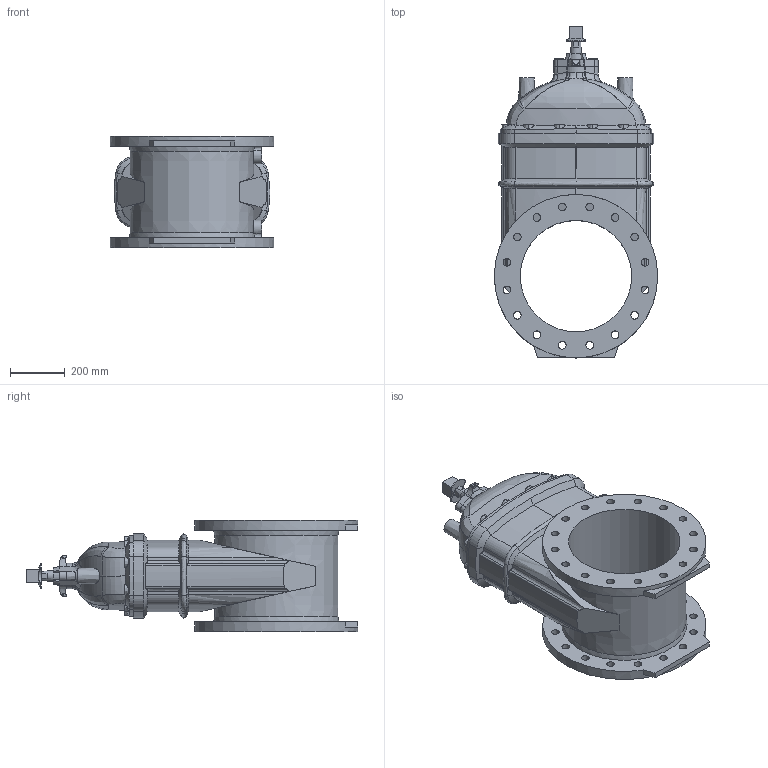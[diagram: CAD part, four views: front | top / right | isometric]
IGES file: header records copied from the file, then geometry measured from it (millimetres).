
Start section: SolidWorks IGES file using analytic representation for surfaces
Global section: file name: \\avksan2\techshare\PBM outline export from Enovia\O_45_5D_DN400_X0XXX_AA1.igs; native system: SolidWorks 2012; preprocessor: SolidWorks 2012; author: pbm; date: 170922.075148; units: millimetre
Bounding box: 597 x 1212.5 x 406 mm (x, y, z)
Surface area: 2653719.2 mm2 (no closed solid volume)
Topology: 0 solids, 0 shells, 472 faces, 2527 edges, 2452 vertices
Faces by surface type: revolution 257, bspline 215
